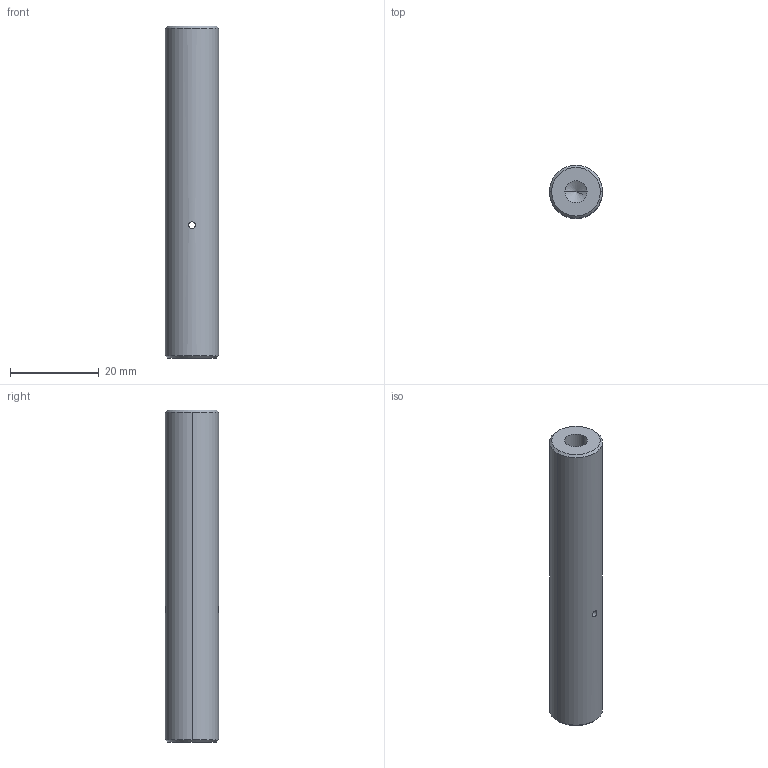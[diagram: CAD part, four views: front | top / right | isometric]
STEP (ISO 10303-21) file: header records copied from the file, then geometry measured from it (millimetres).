
FILE_DESCRIPTION (( 'STEP AP203' ), '1' );
FILE_NAME ('PHSP12-3A.step', '2019-05-09T09:07:54', ( '' ), ( '' ), 'SwSTEP 2.0', 'SolidWorks 2016', '' );
FILE_SCHEMA (( 'CONFIG_CONTROL_DESIGN' ));
Length unit declared in the file: millimetre
Products named in the file (1): PHSP12-3A
Bounding box: 12 x 12 x 75 mm (x, y, z)
Volume: 7882.5 mm3; surface area: 3530 mm2
Topology: 1 solids, 1 shells, 18 faces, 40 edges, 22 vertices
Faces by surface type: cylinder 8, cone 8, plane 2
Entity records: 597 total; most frequent: CARTESIAN_POINT 133, DIRECTION 86, ORIENTED_EDGE 72, EDGE_CURVE 36, AXIS2_PLACEMENT_3D 35, VERTEX_POINT 22, EDGE_LOOP 22, FACE_OUTER_BOUND 18
